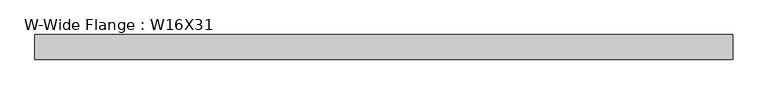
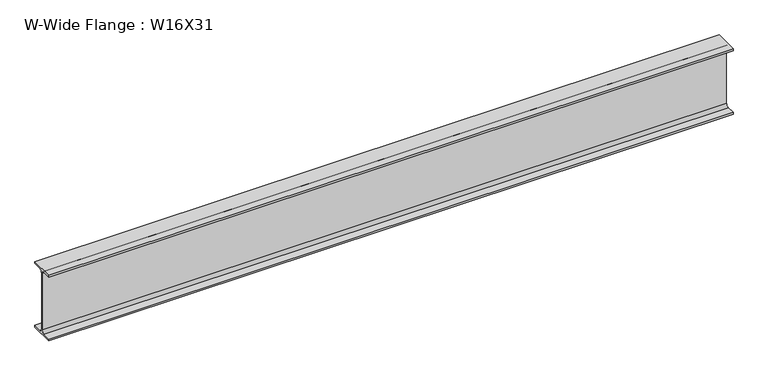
"""IFC4 building model written with IfcOpenShell, lengths in millimetres: beam geometry, W-Wide Flange : W16X31."""

from ifc_helpers import new_model, si_unit, point, frame, frame_2d, origin, place, context, project, spatial, polyline, circle_curve, trimmed, segment, composite_curve, outline, extrude, source, transform, mapped, element, save


def w_wide_flange_w16x31_3e3183ac(model_context):
    return source(origin(), model_context, "Body", "SweptSolid", [
        extrude(outline(composite_curve([segment(polyline([(70.231, -190.754), (70.231, -201.93), (-70.231, -201.93), (-70.231, -190.754), (-20.8915, -190.754)]), True, "CONTINUOUS"), segment(trimmed(circle_curve(frame_2d((-20.8915, -173.355)), 17.399), [point((-20.8915, -190.754))], [point((-3.4925, -173.355))], True, "CARTESIAN"), True, "CONTINUOUS"), segment(polyline([(-3.4925, -173.355), (-3.4925, 173.355)]), True, "CONTINUOUS"), segment(trimmed(circle_curve(frame_2d((-20.8915, 173.355)), 17.399), [point((-3.4925, 173.355))], [point((-20.8915, 190.754))], True, "CARTESIAN"), True, "CONTINUOUS"), segment(polyline([(-20.8915, 190.754), (-70.231, 190.754), (-70.231, 201.93), (70.231, 201.93), (70.231, 190.754), (20.8915, 190.754)]), True, "CONTINUOUS"), segment(trimmed(circle_curve(frame_2d((20.8915, 173.355)), 17.399), [point((20.8915, 190.754))], [point((3.4925, 173.355))], True, "CARTESIAN"), True, "CONTINUOUS"), segment(polyline([(3.4925, 173.355), (3.4925, -173.355)]), True, "CONTINUOUS"), segment(trimmed(circle_curve(frame_2d((20.8915, -173.355)), 17.399), [point((3.4925, -173.355))], [point((20.8915, -190.754))], True, "CARTESIAN"), True, "CONTINUOUS"), segment(polyline([(20.8915, -190.754), (70.231, -190.754)]), True, "CONTINUOUS")], self_intersect=False)), frame((-2052.124346, 0.0, 0.0), z_axis=(1.0, 0.0, 0.0), x_axis=(0.0, 1.0, 0.0)), (0.0, 0.0, 1.0), 3987.789692),
    ])


if __name__ == "__main__":
    model = new_model("IFC4")
    model_context = context("Model", 3, world=origin())
    ifc_project = project(units=[si_unit("LENGTHUNIT", "METRE", prefix="MILLI")], contexts=[model_context])
    site = spatial("IfcSite", under=ifc_project)
    building = spatial("IfcBuilding", under=site)
    placement = place(None, origin())
    w_wide_flange_w16x31_shape = w_wide_flange_w16x31_3e3183ac(model_context)
    element("IfcBeam", 1, ObjectType="W-Wide Flange : W16X31", at=placement, inside=building, context=model_context, shape_type="MappedRepresentation", body=[
        mapped(w_wide_flange_w16x31_shape, transform((0.0, 0.0, 0.0), x_axis=(1.0, 0.0, 0.0), y_axis=(0.0, 1.0, 0.0), z_axis=(0.0, 0.0, 1.0))),
    ])
    save(model, "model.ifc")
